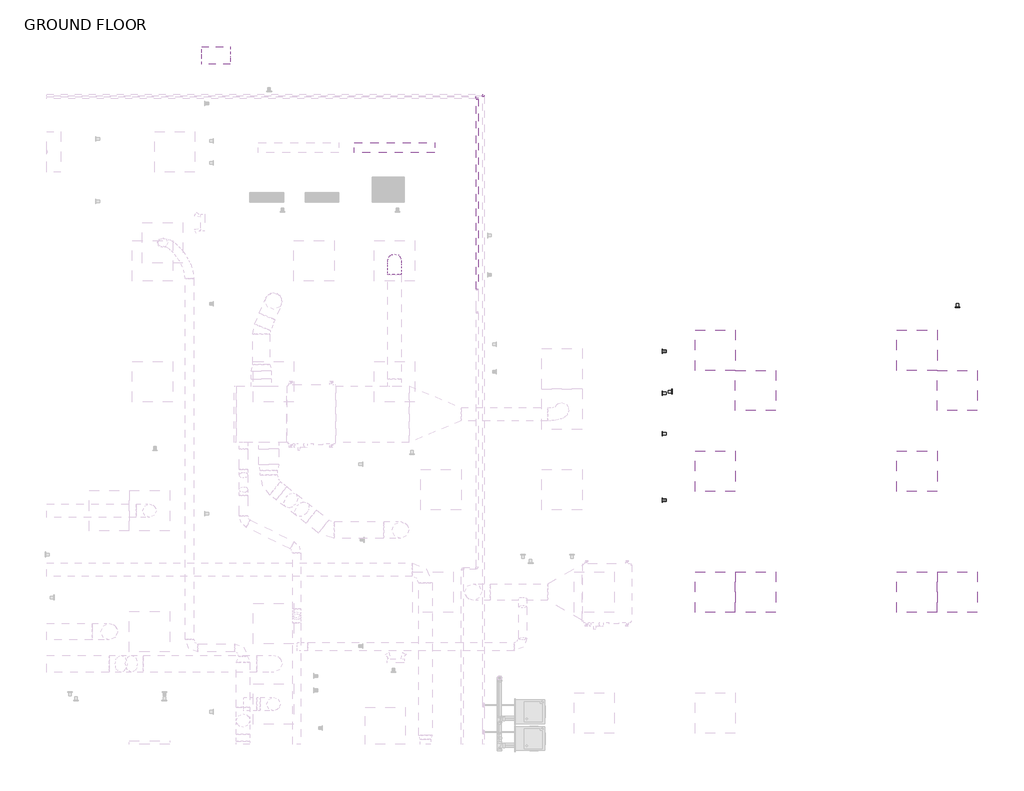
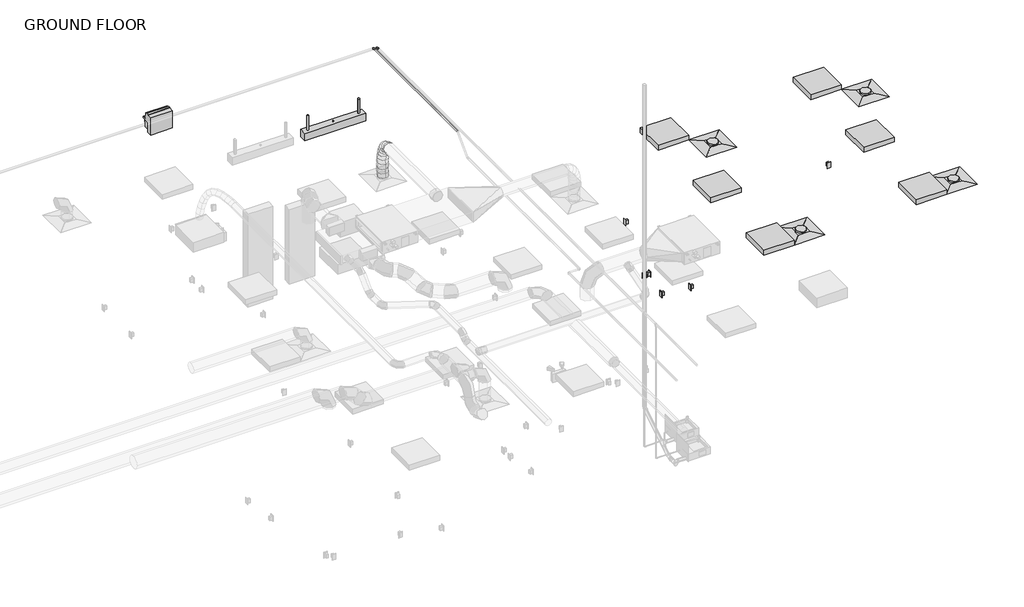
# One storey, part 22 of 22: 8 light fixtures, 5 proxies, 4 air terminals, 2 pipe fittings, 1 duct segment, 1 electric appliance, 1 pipe segment.
"""IFC4 building model written with IfcOpenShell, lengths in millimetres."""

from ifc_helpers import new_model, si_unit, point, frame, frame_2d, origin, place, context, project, spatial, circle_curve, ellipse_curve, trimmed, segment, composite_curve, outline, extrude, transform, mapped, element, save
from ifc_brep_helpers import plane_surface, cylinder_surface, advanced_brep
from components import air_terminal_e9020785, duplex_receptacle_countertop_10251bba, telephone_outlet_data_plain_18c24199, suspended_fluorescent_strip_non_hosted_strip_light_1x4_120v_4ea4ccb3, troffer_corner_insert_2x2_3lamp_e67c7f8f, wall_pack_light_exterior_120v_ab60a804, elbow_generic_standard_c06ac706

model = new_model("IFC4")

# Units and contexts
model_context = context("Model", 3, world=origin())
ifc_project = project(units=[si_unit("LENGTHUNIT", "METRE", prefix="MILLI")], contexts=[model_context])

# Site, building, storey
site = spatial("IfcSite", under=ifc_project)
building = spatial("IfcBuilding", under=site)
storey = spatial("IfcBuildingStorey", under=building, Name="GROUND FLOOR", Elevation=30480.0)

# Air terminals
placement = place(None, origin())
air_terminal_shape = air_terminal_e9020785(model_context)
element("IfcAirTerminal", 1, ObjectType="Supply Diffuser - Rectangular Face Round Neck - Hosted : 24\"x24\" Face 8\" Neck - Hosted", at=placement, inside=storey, context=model_context, shape_type="MappedRepresentation", body=[
    mapped(air_terminal_shape, transform((17496.7920393, 3199.8070005, 33223.2), x_axis=(0.0, -1.0, 0.0), y_axis=(-1.0, 0.0, 0.0), z_axis=(0.0, 0.0, -1.0))),
])
element("IfcAirTerminal", 2, ObjectType="Supply Diffuser - Rectangular Face Round Neck - Hosted : 24\"x24\" Face 8\" Neck - Hosted", at=placement, inside=storey, context=model_context, shape_type="MappedRepresentation", body=[
    mapped(air_terminal_shape, transform((20544.7920393, 3199.8070005, 33223.2), x_axis=(0.0, -1.0, 0.0), y_axis=(-1.0, 0.0, 0.0), z_axis=(0.0, 0.0, -1.0))),
])
element("IfcAirTerminal", 3, ObjectType="Supply Diffuser - Rectangular Face Round Neck - Hosted : 24\"x24\" Face 8\" Neck - Hosted", at=placement, inside=storey, context=model_context, shape_type="MappedRepresentation", body=[
    mapped(air_terminal_shape, transform((20544.7920393, 151.8070005, 33223.2), x_axis=(0.0, -1.0, 0.0), y_axis=(-1.0, 0.0, 0.0), z_axis=(0.0, 0.0, -1.0))),
])
element("IfcAirTerminal", 4, ObjectType="Supply Diffuser - Rectangular Face Round Neck - Hosted : 24\"x24\" Face 8\" Neck - Hosted", at=placement, inside=storey, context=model_context, shape_type="MappedRepresentation", body=[
    mapped(air_terminal_shape, transform((17496.7920393, 151.8070005, 33223.2), x_axis=(0.0, -1.0, 0.0), y_axis=(-1.0, 0.0, 0.0), z_axis=(0.0, 0.0, -1.0))),
])

# Proxies
duplex_receptacle_countertop_shape = duplex_receptacle_countertop_10251bba(model_context)
element("IfcBuildingElementProxy", 5, Name="Duplex Receptacle : Countertop", ObjectType="Duplex Receptacle : Countertop", at=placement, inside=storey, context=model_context, shape_type="MappedRepresentation", body=[
    mapped(duplex_receptacle_countertop_shape, transform((16088.906325, 1539.5608469, 31699.2), x_axis=(0.0, -1.0, 0.0), y_axis=(0.0, 0.0, 1.0), z_axis=(-1.0, 0.0, 0.0))),
])
element("IfcBuildingElementProxy", 6, Name="Duplex Receptacle : Countertop", ObjectType="Duplex Receptacle : Countertop", at=placement, inside=storey, context=model_context, shape_type="MappedRepresentation", body=[
    mapped(duplex_receptacle_countertop_shape, transform((16088.906325, 3795.2532913, 31699.2), x_axis=(0.0, -1.0, 0.0), y_axis=(0.0, 0.0, 1.0), z_axis=(-1.0, 0.0, 0.0))),
])
element("IfcBuildingElementProxy", 7, Name="Duplex Receptacle : Standard", ObjectType="Duplex Receptacle : Standard", at=placement, inside=storey, context=model_context, shape_type="MappedRepresentation", body=[
    mapped(duplex_receptacle_countertop_shape, transform((16088.906325, 2547.8133122, 30937.2), x_axis=(0.0, -1.0, 0.0), y_axis=(0.0, 0.0, 1.0), z_axis=(-1.0, 0.0, 0.0))),
])
element("IfcBuildingElementProxy", 8, Name="Duplex Receptacle : Standard", ObjectType="Duplex Receptacle : Standard", at=placement, inside=storey, context=model_context, shape_type="MappedRepresentation", body=[
    mapped(duplex_receptacle_countertop_shape, transform((16231.781325, 3185.3893172, 30937.2), x_axis=(0.0, 1.0, 0.0), y_axis=(0.0, 0.0, 1.0), z_axis=(1.0, 0.0, 0.0))),
])
element("IfcBuildingElementProxy", 9, Name="Duplex Receptacle : Standard", ObjectType="Duplex Receptacle : Standard", at=placement, inside=storey, context=model_context, shape_type="MappedRepresentation", body=[
    mapped(duplex_receptacle_countertop_shape, transform((20546.6842063, 4461.8695005, 30937.2), x_axis=(1.0, 0.0, 0.0), y_axis=(0.0, 0.0, 1.0), z_axis=(0.0, -1.0, 0.0))),
])

# Duct segment
element("IfcDuctSegment", 10, ObjectType="Flex - Round", at=placement, inside=storey, context=model_context, shape_type="AdvancedBrep", body=[
    advanced_brep(
    [(11938.9545393, 4950.8195005, 33978.85), (12040.5545393, 4950.8195005, 33877.25), (12142.1545393, 4950.8195005, 33978.85), (12040.5545393, 4950.8195005, 34080.45), (11938.9545393, 4972.9798381, 33978.85), (12040.5545393, 4956.9529738, 33877.25), (12142.1545393, 4972.9798381, 33978.85), (12040.5545393, 4989.0067024, 34080.45), (11938.9545393, 5163.5445005, 33277.175), (12040.5545393, 5265.1408358, 33276.3120659), (12142.1545393, 5163.5445005, 33277.175), (12040.5545393, 5061.9481652, 33278.0379341), (11938.9545393, 5022.484368, 33962.8332928), (12040.5545393, 4972.7563767, 33872.1369633), (12142.1545393, 5022.484368, 33962.8332928), (12040.5545393, 5072.2123592, 34053.5296222), (11938.9545393, 5076.2316664, 33918.4601975), (12040.5545393, 4997.2093755, 33851.9488743), (12142.1545393, 5076.2316664, 33918.4601975), (12040.5545393, 5155.2539573, 33984.9715207), (11938.9545393, 5114.5944158, 33851.2462539), (12040.5545393, 5020.6511868, 33810.8773504), (12142.1545393, 5114.5944158, 33851.2462539), (12040.5545393, 5208.5376447, 33891.6151575), (11938.9545393, 5140.105636, 33766.7070017), (12040.5545393, 5040.8288551, 33744.0124582), (12142.1545393, 5140.105636, 33766.7070017), (12040.5545393, 5239.382417, 33789.4015452), (11938.9545393, 5155.2983472, 33670.3579805), (12040.5545393, 5054.2705013, 33658.768328), (12142.1545393, 5155.2983472, 33670.3579805), (12040.5545393, 5256.3261931, 33681.947633), (11938.9545393, 5162.7055692, 33567.7147301), (12040.5545393, 5061.1818121, 33562.9970113), (12142.1545393, 5162.7055692, 33567.7147301), (12040.5545393, 5264.2293264, 33572.4324488), (11938.9545393, 5164.8603222, 33464.29279), (12040.5545393, 5063.2542663, 33463.5251708), (12142.1545393, 5164.8603222, 33464.29279), (12040.5545393, 5266.466378, 33465.0604093), (11938.9545393, 5164.2956259, 33365.6077001), (12040.5545393, 5062.6980949, 33366.3298518), (12142.1545393, 5164.2956259, 33365.6077001), (12040.5545393, 5265.893157, 33364.8855485)],
    [
        (0, 1, circle_curve(frame((12040.5545393, 4950.8195005, 33978.85), z_axis=(0.0, -1.0, 0.0), x_axis=(-1.0, 0.0, 0.0)), 101.6)),
        (1, 2, circle_curve(frame((12040.5545393, 4950.8195005, 33978.85), z_axis=(0.0, -1.0, 0.0), x_axis=(-1.0, 0.0, 0.0)), 101.6)),
        (2, 3, circle_curve(frame((12040.5545393, 4950.8195005, 33978.85), z_axis=(0.0, -1.0, 0.0), x_axis=(-1.0, 0.0, 0.0)), 101.6)),
        (3, 0, circle_curve(frame((12040.5545393, 4950.8195005, 33978.85), z_axis=(0.0, -1.0, 0.0), x_axis=(-1.0, 0.0, 0.0)), 101.6)),
        (0, 4),
        (4, 5, ellipse_curve(frame((12040.5545393, 4972.9798381, 33978.85), z_axis=(0.0, -0.9877857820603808, 0.15581799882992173), x_axis=(0.0, -0.15581799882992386, -0.9877857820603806)), 102.8563094, 101.6)),
        (5, 1),
        (5, 6, ellipse_curve(frame((12040.5545393, 4972.9798381, 33978.85), z_axis=(0.0, -0.9877857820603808, 0.15581799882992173), x_axis=(0.0, -0.15581799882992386, -0.9877857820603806)), 102.8563094, 101.6)),
        (6, 2),
        (6, 7, ellipse_curve(frame((12040.5545393, 4972.9798381, 33978.85), z_axis=(0.0, -0.9877857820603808, 0.15581799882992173), x_axis=(0.0, -0.15581799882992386, -0.9877857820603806)), 102.8563094, 101.6)),
        (7, 3),
        (7, 4, ellipse_curve(frame((12040.5545393, 4972.9798381, 33978.85), z_axis=(0.0, -0.9877857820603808, 0.15581799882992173), x_axis=(0.0, -0.15581799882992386, -0.9877857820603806)), 102.8563094, 101.6)),
        (8, 9, circle_curve(frame((12040.5545393, 5163.5445005, 33277.175), z_axis=(0.0, -0.008493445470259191, -0.9999639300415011), x_axis=(-1.0, 0.0, 0.0)), 101.6)),
        (9, 10, circle_curve(frame((12040.5545393, 5163.5445005, 33277.175), z_axis=(0.0, -0.008493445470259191, -0.9999639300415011), x_axis=(-1.0, 0.0, 0.0)), 101.6)),
        (10, 11, circle_curve(frame((12040.5545393, 5163.5445005, 33277.175), z_axis=(0.0, -0.008493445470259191, -0.9999639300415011), x_axis=(-1.0, 0.0, 0.0)), 101.6)),
        (11, 8, circle_curve(frame((12040.5545393, 5163.5445005, 33277.175), z_axis=(0.0, -0.008493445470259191, -0.9999639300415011), x_axis=(-1.0, 0.0, 0.0)), 101.6)),
        (4, 12),
        (12, 13, ellipse_curve(frame((12040.5545393, 5022.484368, 33962.8332928), z_axis=(0.0, -0.8768478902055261, 0.48076790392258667), x_axis=(0.0, -0.48076790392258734, -0.8768478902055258)), 103.4345072, 101.6)),
        (13, 5),
        (13, 14, ellipse_curve(frame((12040.5545393, 5022.484368, 33962.8332928), z_axis=(0.0, -0.8768478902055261, 0.48076790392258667), x_axis=(0.0, -0.48076790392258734, -0.8768478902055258)), 103.4345072, 101.6)),
        (14, 6),
        (14, 15, ellipse_curve(frame((12040.5545393, 5022.484368, 33962.8332928), z_axis=(0.0, -0.8768478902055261, 0.48076790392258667), x_axis=(0.0, -0.48076790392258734, -0.8768478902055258)), 103.4345072, 101.6)),
        (15, 7),
        (15, 12, ellipse_curve(frame((12040.5545393, 5022.484368, 33962.8332928), z_axis=(0.0, -0.8768478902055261, 0.48076790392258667), x_axis=(0.0, -0.48076790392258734, -0.8768478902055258)), 103.4345072, 101.6)),
        (12, 16),
        (16, 17, ellipse_curve(frame((12040.5545393, 5076.2316664, 33918.4601975), z_axis=(0.0, -0.6439444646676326, 0.7650722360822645), x_axis=(0.0, -0.7650722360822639, -0.6439444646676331)), 103.2873592, 101.6)),
        (17, 13),
        (17, 18, ellipse_curve(frame((12040.5545393, 5076.2316664, 33918.4601975), z_axis=(0.0, -0.6439444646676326, 0.7650722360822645), x_axis=(0.0, -0.7650722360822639, -0.6439444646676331)), 103.2873592, 101.6)),
        (18, 14),
        (18, 19, ellipse_curve(frame((12040.5545393, 5076.2316664, 33918.4601975), z_axis=(0.0, -0.6439444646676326, 0.7650722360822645), x_axis=(0.0, -0.7650722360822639, -0.6439444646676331)), 103.2873592, 101.6)),
        (19, 15),
        (19, 16, ellipse_curve(frame((12040.5545393, 5076.2316664, 33918.4601975), z_axis=(0.0, -0.6439444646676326, 0.7650722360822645), x_axis=(0.0, -0.7650722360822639, -0.6439444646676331)), 103.2873592, 101.6)),
        (16, 20),
        (20, 21, ellipse_curve(frame((12040.5545393, 5114.5944158, 33851.2462539), z_axis=(0.0, -0.39480748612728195, 0.9187638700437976), x_axis=(0.0, -0.9187638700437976, -0.39480748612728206)), 102.24959, 101.6)),
        (21, 17),
        (21, 22, ellipse_curve(frame((12040.5545393, 5114.5944158, 33851.2462539), z_axis=(0.0, -0.39480748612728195, 0.9187638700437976), x_axis=(0.0, -0.9187638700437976, -0.39480748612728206)), 102.24959, 101.6)),
        (22, 18),
        (22, 23, ellipse_curve(frame((12040.5545393, 5114.5944158, 33851.2462539), z_axis=(0.0, -0.39480748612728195, 0.9187638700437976), x_axis=(0.0, -0.9187638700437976, -0.39480748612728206)), 102.24959, 101.6)),
        (23, 19),
        (23, 20, ellipse_curve(frame((12040.5545393, 5114.5944158, 33851.2462539), z_axis=(0.0, -0.39480748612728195, 0.9187638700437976), x_axis=(0.0, -0.9187638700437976, -0.39480748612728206)), 102.24959, 101.6)),
        (20, 24),
        (24, 25, ellipse_curve(frame((12040.5545393, 5140.105636, 33766.7070017), z_axis=(0.0, -0.22285007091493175, 0.9748527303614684), x_axis=(0.0, -0.9748527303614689, -0.22285007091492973)), 101.8377216, 101.6)),
        (25, 21),
        (25, 26, ellipse_curve(frame((12040.5545393, 5140.105636, 33766.7070017), z_axis=(0.0, -0.22285007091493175, 0.9748527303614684), x_axis=(0.0, -0.9748527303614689, -0.22285007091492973)), 101.8377216, 101.6)),
        (26, 22),
        (26, 27, ellipse_curve(frame((12040.5545393, 5140.105636, 33766.7070017), z_axis=(0.0, -0.22285007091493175, 0.9748527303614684), x_axis=(0.0, -0.9748527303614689, -0.22285007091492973)), 101.8377216, 101.6)),
        (27, 23),
        (27, 24, ellipse_curve(frame((12040.5545393, 5140.105636, 33766.7070017), z_axis=(0.0, -0.22285007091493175, 0.9748527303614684), x_axis=(0.0, -0.9748527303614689, -0.22285007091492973)), 101.8377216, 101.6)),
        (24, 28),
        (28, 29, ellipse_curve(frame((12040.5545393, 5155.2983472, 33670.3579805), z_axis=(0.0, -0.11396993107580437, 0.9934841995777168), x_axis=(0.0, -0.9934841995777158, -0.11396993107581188)), 101.6904406, 101.6)),
        (29, 25),
        (29, 30, ellipse_curve(frame((12040.5545393, 5155.2983472, 33670.3579805), z_axis=(0.0, -0.11396993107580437, 0.9934841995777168), x_axis=(0.0, -0.9934841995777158, -0.11396993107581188)), 101.6904406, 101.6)),
        (30, 26),
        (30, 31, ellipse_curve(frame((12040.5545393, 5155.2983472, 33670.3579805), z_axis=(0.0, -0.11396993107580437, 0.9934841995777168), x_axis=(0.0, -0.9934841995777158, -0.11396993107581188)), 101.6904406, 101.6)),
        (31, 27),
        (31, 28, ellipse_curve(frame((12040.5545393, 5155.2983472, 33670.3579805), z_axis=(0.0, -0.11396993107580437, 0.9934841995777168), x_axis=(0.0, -0.9934841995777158, -0.11396993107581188)), 101.6904406, 101.6)),
        (28, 32),
        (32, 33, ellipse_curve(frame((12040.5545393, 5162.7055692, 33567.7147301), z_axis=(0.0, -0.04641902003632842, 0.9989220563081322), x_axis=(0.0, -0.9989220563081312, -0.04641902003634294)), 101.6333122, 101.6)),
        (33, 29),
        (33, 34, ellipse_curve(frame((12040.5545393, 5162.7055692, 33567.7147301), z_axis=(0.0, -0.04641902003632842, 0.9989220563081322), x_axis=(0.0, -0.9989220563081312, -0.04641902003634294)), 101.6333122, 101.6)),
        (34, 30),
        (34, 35, ellipse_curve(frame((12040.5545393, 5162.7055692, 33567.7147301), z_axis=(0.0, -0.04641902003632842, 0.9989220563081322), x_axis=(0.0, -0.9989220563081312, -0.04641902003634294)), 101.6333122, 101.6)),
        (35, 31),
        (35, 32, ellipse_curve(frame((12040.5545393, 5162.7055692, 33567.7147301), z_axis=(0.0, -0.04641902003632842, 0.9989220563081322), x_axis=(0.0, -0.9989220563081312, -0.04641902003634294)), 101.6333122, 101.6)),
        (32, 36),
        (36, 37, ellipse_curve(frame((12040.5545393, 5164.8603222, 33464.29279), z_axis=(0.0, -0.007554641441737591, 0.9999714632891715), x_axis=(0.0, -0.9999714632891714, -0.007554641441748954)), 101.6089554, 101.6)),
        (37, 33),
        (37, 38, ellipse_curve(frame((12040.5545393, 5164.8603222, 33464.29279), z_axis=(0.0, -0.007554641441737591, 0.9999714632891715), x_axis=(0.0, -0.9999714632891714, -0.007554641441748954)), 101.6089554, 101.6)),
        (38, 34),
        (38, 39, ellipse_curve(frame((12040.5545393, 5164.8603222, 33464.29279), z_axis=(0.0, -0.007554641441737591, 0.9999714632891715), x_axis=(0.0, -0.9999714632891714, -0.007554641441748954)), 101.6089554, 101.6)),
        (39, 35),
        (39, 36, ellipse_curve(frame((12040.5545393, 5164.8603222, 33464.29279), z_axis=(0.0, -0.007554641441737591, 0.9999714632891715), x_axis=(0.0, -0.9999714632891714, -0.007554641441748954)), 101.6089554, 101.6)),
        (36, 40),
        (40, 41, ellipse_curve(frame((12040.5545393, 5164.2956259, 33365.6077001), z_axis=(0.0, 0.007107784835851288, 0.9999747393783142), x_axis=(8.836425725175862e-12, -0.9999747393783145, 0.007107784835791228)), 101.6000975, 101.6)),
        (41, 37),
        (41, 42, ellipse_curve(frame((12040.5545393, 5164.2956259, 33365.6077001), z_axis=(0.0, 0.007107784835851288, 0.9999747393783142), x_axis=(8.836425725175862e-12, -0.9999747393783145, 0.007107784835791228)), 101.6000975, 101.6)),
        (42, 38),
        (42, 43, ellipse_curve(frame((12040.5545393, 5164.2956259, 33365.6077001), z_axis=(0.0, 0.007107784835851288, 0.9999747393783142), x_axis=(8.836425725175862e-12, -0.9999747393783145, 0.007107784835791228)), 101.6000975, 101.6)),
        (43, 39),
        (43, 40, ellipse_curve(frame((12040.5545393, 5164.2956259, 33365.6077001), z_axis=(0.0, 0.007107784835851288, 0.9999747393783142), x_axis=(8.836425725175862e-12, -0.9999747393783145, 0.007107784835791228)), 101.6000975, 101.6)),
        (40, 8),
        (11, 41),
        (10, 42),
        (9, 43),
    ],
    [
        plane_surface(frame((11938.9545393, 4950.8195005, 33978.85), z_axis=(0.0, -1.0, 0.0), x_axis=(0.0, 0.0, 1.0))),
        cylinder_surface(frame((12040.5545393, 4950.8195005, 33978.85), z_axis=(0.0, -1.0, 0.0), x_axis=(-1.0, 0.0, 0.0)), 101.6),
        plane_surface(frame((12040.5545393, 5265.1408358, 33276.3120659), z_axis=(0.0, -0.008493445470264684, -0.9999639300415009), x_axis=(1.0, 0.0, 0.0))),
        cylinder_surface(frame((12040.5545393, 4972.9798381, 33978.85), z_axis=(0.0, -0.951441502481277, 0.30782960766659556), x_axis=(-1.0, 0.0, 0.0)), 101.6),
        cylinder_surface(frame((12040.5545393, 5022.484368, 33962.8332928), z_axis=(0.0, -0.7711508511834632, 0.6366524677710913), x_axis=(-1.0, 0.0, 0.0)), 101.6),
        cylinder_surface(frame((12040.5545393, 5076.2316664, 33918.4601975), z_axis=(0.0, -0.4956984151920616, 0.8684947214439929), x_axis=(-1.0, 0.0, 0.0)), 101.6),
        cylinder_surface(frame((12040.5545393, 5114.5944158, 33851.2462539), z_axis=(0.0, -0.2889001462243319, 0.9573592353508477), x_axis=(-1.0, 0.0, 0.0)), 101.6),
        cylinder_surface(frame((12040.5545393, 5140.105636, 33766.7070017), z_axis=(0.0, -0.15575959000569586, 0.9877949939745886), x_axis=(-1.0, 0.0, 0.0)), 101.6),
        cylinder_surface(frame((12040.5545393, 5155.2983472, 33670.3579805), z_axis=(0.0, -0.07197754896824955, 0.9974062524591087), x_axis=(-1.0, 0.0, 0.0)), 101.6),
        cylinder_surface(frame((12040.5545393, 5162.7055692, 33567.7147301), z_axis=(0.0, -0.020830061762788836, 0.9997830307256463), x_axis=(-1.0, 0.0, 0.0)), 101.6),
        cylinder_surface(frame((12040.5545393, 5164.8603222, 33464.29279), z_axis=(0.0, 0.005722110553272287, 0.9999836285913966), x_axis=(-1.0, 0.0, 0.0)), 101.6),
        cylinder_surface(frame((12040.5545393, 5164.2956259, 33365.6077001), z_axis=(0.0, 0.00849344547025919, 0.9999639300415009), x_axis=(-1.0, 0.0, 0.0)), 101.6),
    ],
    [
        (0, [[1, 2, 3, 4]]),
        (1, [[-1, 5, 6, 7]]),
        (1, [[-2, -7, 8, 9]]),
        (1, [[-3, -9, 10, 11]]),
        (1, [[-4, -11, 12, -5]]),
        (2, [[13, 14, 15, 16]]),
        (3, [[-6, 17, 18, 19]]),
        (3, [[-8, -19, 20, 21]]),
        (3, [[-10, -21, 22, 23]]),
        (3, [[-12, -23, 24, -17]]),
        (4, [[-18, 25, 26, 27]]),
        (4, [[-20, -27, 28, 29]]),
        (4, [[-22, -29, 30, 31]]),
        (4, [[-24, -31, 32, -25]]),
        (5, [[-26, 33, 34, 35]]),
        (5, [[-28, -35, 36, 37]]),
        (5, [[-30, -37, 38, 39]]),
        (5, [[-32, -39, 40, -33]]),
        (6, [[-34, 41, 42, 43]]),
        (6, [[-36, -43, 44, 45]]),
        (6, [[-38, -45, 46, 47]]),
        (6, [[-40, -47, 48, -41]]),
        (7, [[-42, 49, 50, 51]]),
        (7, [[-44, -51, 52, 53]]),
        (7, [[-46, -53, 54, 55]]),
        (7, [[-48, -55, 56, -49]]),
        (8, [[-50, 57, 58, 59]]),
        (8, [[-52, -59, 60, 61]]),
        (8, [[-54, -61, 62, 63]]),
        (8, [[-56, -63, 64, -57]]),
        (9, [[-58, 65, 66, 67]]),
        (9, [[-60, -67, 68, 69]]),
        (9, [[-62, -69, 70, 71]]),
        (9, [[-64, -71, 72, -65]]),
        (10, [[-66, 73, 74, 75]]),
        (10, [[-68, -75, 76, 77]]),
        (10, [[-70, -77, 78, 79]]),
        (10, [[-72, -79, 80, -73]]),
        (11, [[-74, 81, -16, 82]]),
        (11, [[-76, -82, -15, 83]]),
        (11, [[-78, -83, -14, 84]]),
        (11, [[-80, -84, -13, -81]]),
    ],
),
])

# Electric appliance
telephone_outlet_data_plain_shape = telephone_outlet_data_plain_18c24199(model_context)
element("IfcElectricAppliance", 11, ObjectType="Telephone Outlet - Data : Plain", at=placement, inside=storey, context=model_context, shape_type="MappedRepresentation", body=[
    mapped(telephone_outlet_data_plain_shape, transform((16088.906325, 2280.2614465, 30079.95), x_axis=(0.0, -1.0, 0.0), y_axis=(0.0, 0.0, 1.0), z_axis=(-1.0, 0.0, 0.0))),
])

# Light fixtures
suspended_fluorescent_strip_non_hosted_strip_light_1x4_120v_shape = suspended_fluorescent_strip_non_hosted_strip_light_1x4_120v_4ea4ccb3(model_context)
element("IfcLightFixture", 12, ObjectType="Suspended Fluorescent Strip - Non-Hosted : Strip Light 1x4 - 120V Normal", at=placement, inside=storey, context=model_context, shape_type="MappedRepresentation", body=[
    mapped(suspended_fluorescent_strip_non_hosted_strip_light_1x4_120v_shape, transform((12040.5545393, 6874.6802316, 33223.2), x_axis=(1.0, 0.0, 0.0), y_axis=(0.0, 1.0, 0.0), z_axis=(0.0, 0.0, 1.0))),
])
troffer_corner_insert_2x2_3lamp_shape = troffer_corner_insert_2x2_3lamp_e67c7f8f(model_context)
element("IfcLightFixture", 13, ObjectType="Troffer Corner Insert : 2x2 3Lamp", at=placement, inside=storey, context=model_context, shape_type="MappedRepresentation", body=[
    mapped(troffer_corner_insert_2x2_3lamp_shape, transform((16887.1920393, 3809.4070005, 30784.8), x_axis=(1.0, 0.0, 0.0), y_axis=(0.0, 1.0, 0.0), z_axis=(0.0, 0.0, 1.0))),
])
element("IfcLightFixture", 14, ObjectType="Troffer Corner Insert : 2x2 3Lamp", at=placement, inside=storey, context=model_context, shape_type="MappedRepresentation", body=[
    mapped(troffer_corner_insert_2x2_3lamp_shape, transform((19935.1920393, 3809.4070005, 30784.8), x_axis=(1.0, 0.0, 0.0), y_axis=(0.0, 1.0, 0.0), z_axis=(0.0, 0.0, 1.0))),
])
element("IfcLightFixture", 15, ObjectType="Troffer Corner Insert : 2x2 3Lamp", at=placement, inside=storey, context=model_context, shape_type="MappedRepresentation", body=[
    mapped(troffer_corner_insert_2x2_3lamp_shape, transform((16887.1920393, 1980.6070005, 30784.8), x_axis=(1.0, 0.0, 0.0), y_axis=(0.0, 1.0, 0.0), z_axis=(0.0, 0.0, 1.0))),
])
element("IfcLightFixture", 16, ObjectType="Troffer Corner Insert : 2x2 3Lamp", at=placement, inside=storey, context=model_context, shape_type="MappedRepresentation", body=[
    mapped(troffer_corner_insert_2x2_3lamp_shape, transform((19935.1920393, 1980.6070005, 30784.8), x_axis=(1.0, 0.0, 0.0), y_axis=(0.0, 1.0, 0.0), z_axis=(0.0, 0.0, 1.0))),
])
element("IfcLightFixture", 17, ObjectType="Troffer Corner Insert : 2x2 3Lamp", at=placement, inside=storey, context=model_context, shape_type="MappedRepresentation", body=[
    mapped(troffer_corner_insert_2x2_3lamp_shape, transform((16887.1920393, 151.8070005, 30784.8), x_axis=(1.0, 0.0, 0.0), y_axis=(0.0, 1.0, 0.0), z_axis=(0.0, 0.0, 1.0))),
])
element("IfcLightFixture", 18, ObjectType="Troffer Corner Insert : 2x2 3Lamp", at=placement, inside=storey, context=model_context, shape_type="MappedRepresentation", body=[
    mapped(troffer_corner_insert_2x2_3lamp_shape, transform((19935.1920393, 151.8070005, 30784.8), x_axis=(1.0, 0.0, 0.0), y_axis=(0.0, 1.0, 0.0), z_axis=(0.0, 0.0, 1.0))),
])
wall_pack_light_exterior_120v_shape = wall_pack_light_exterior_120v_ab60a804(model_context)
element("IfcLightFixture", 19, ObjectType="Wall Pack Light - Exterior : 120V", at=placement, inside=storey, context=model_context, shape_type="MappedRepresentation", body=[
    mapped(wall_pack_light_exterior_120v_shape, transform((9340.036612, 8132.1695005, 33528.0), x_axis=(-1.0, 0.0, 0.0), y_axis=(0.0, 0.0, 1.0), z_axis=(0.0, 1.0, 0.0))),
])

# Pipe fittings
elbow_generic_standard_shape = elbow_generic_standard_c06ac706(model_context)
element("IfcPipeFitting", 20, ObjectType="Elbow - Generic : Standard", at=placement, inside=storey, context=model_context, shape_type="MappedRepresentation", body=[
    mapped(elbow_generic_standard_shape, transform((13383.5569177, 7665.0593518, 33978.2831664), x_axis=(0.0, 1.0, 0.0), y_axis=(-1.0, 0.0, 0.0), z_axis=(0.0, 0.0, 1.0))),
])
element("IfcPipeFitting", 21, ObjectType="Elbow - Generic : Standard", at=placement, inside=storey, context=model_context, shape_type="MappedRepresentation", body=[
    mapped(elbow_generic_standard_shape, transform((13289.5512041, 7628.1810166, 34023.2999997), x_axis=(0.0, 1.0, 0.0), y_axis=(-1.0, 0.0, 0.0), z_axis=(0.0, 0.0, 1.0))),
])

# Pipe segment
element("IfcPipeSegment", 22, ObjectType="Copper Tubing", at=placement, inside=storey, context=model_context, shape_type="SweptSolid", body=[
    extrude(outline(composite_curve([segment(trimmed(circle_curve(frame_2d((34023.2999997, 13289.5512041)), 14.2875), [point((34023.2999997, 13275.2637041))], [point((34009.0124997, 13289.5512041))], False, "CARTESIAN"), True, "CONTINUOUS"), segment(trimmed(circle_curve(frame_2d((34023.2999997, 13289.5512041)), 14.2875), [point((34009.0124997, 13289.5512041))], [point((34023.2999997, 13303.8387041))], False, "CARTESIAN"), True, "CONTINUOUS"), segment(trimmed(circle_curve(frame_2d((34023.2999997, 13289.5512041)), 14.2875), [point((34023.2999997, 13303.8387041))], [point((34037.5874997, 13289.5512041))], False, "CARTESIAN"), True, "CONTINUOUS"), segment(trimmed(circle_curve(frame_2d((34023.2999997, 13289.5512041)), 14.2875), [point((34037.5874997, 13289.5512041))], [point((34023.2999997, 13275.2637041))], False, "CARTESIAN"), True, "CONTINUOUS")], self_intersect=False)), frame((0.0, 4734.7793485, 0.0), z_axis=(0.0, 1.0, 0.0), x_axis=(0.0, 0.0, 1.0)), (0.0, 0.0, 1.0), 2872.7641681),
])

save(model, "model.ifc")
